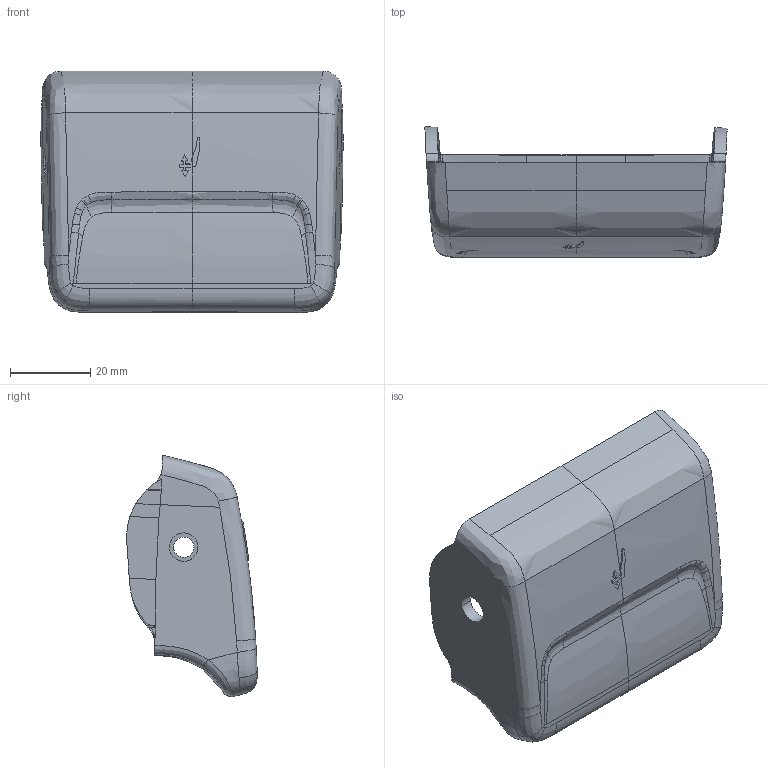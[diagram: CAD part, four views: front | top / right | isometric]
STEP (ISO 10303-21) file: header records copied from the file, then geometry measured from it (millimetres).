
FILE_DESCRIPTION(('CATIA V5 STEP Exchange'),'2;1');
FILE_NAME('C:\Users\lizhaofeng\Desktop\1.0手柄更改\手柄把手.stp','2021-02-22T06:35:03+00:00',('none'),('none'),'CATIA Version 5 Release 20 GA (IN-10)','CATIA V5 STEP AP203 Edition 2','none');
FILE_SCHEMA(('AP203_CONFIGURATION_CONTROLLED_3D_DESIGN_OF_MECHANICAL_PARTS_AND_ASSEMBLIES_MIM_LF { 1 0 10303 403 2 1 2}'));
Products named in the file (1): H3A-6806007
Bounding box: 75.42 x 32.57 x 60.31 mm (x, y, z)
Volume: 27747.1 mm3; surface area: 20433.3 mm2
Topology: 2 solids, 2 shells, 339 faces, 1131 edges, 783 vertices
Faces by surface type: bspline 173, plane 117, cylinder 26, extrusion 19, sphere 4
Entity records: 35428 total; most frequent: CARTESIAN_POINT 28095, ORIENTED_EDGE 2246, EDGE_CURVE 1123, B_SPLINE_CURVE_WITH_KNOTS 842, VERTEX_POINT 781, DIRECTION 436, EDGE_LOOP 343, ADVANCED_FACE 338
